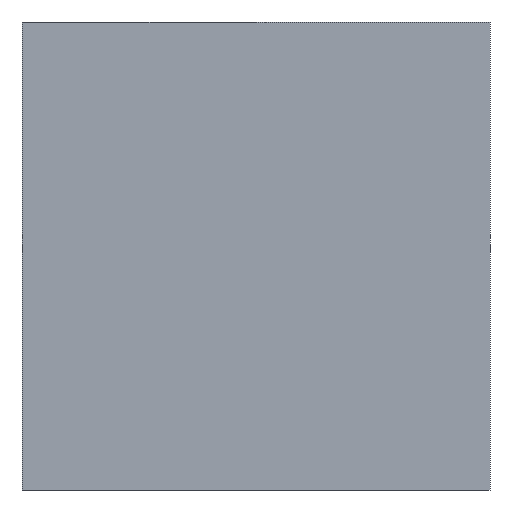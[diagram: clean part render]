
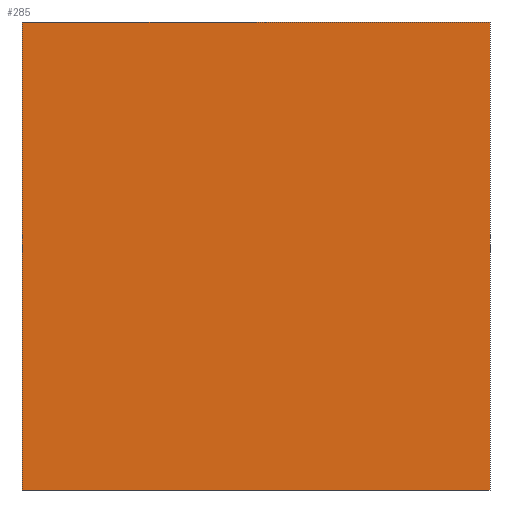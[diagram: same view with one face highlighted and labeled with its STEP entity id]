
A CAD part, front view. The second image highlights one B-rep face of the part: STEP entity #285.
In plain terms, the highlighted planar face has unit normal (0, -1, 0).
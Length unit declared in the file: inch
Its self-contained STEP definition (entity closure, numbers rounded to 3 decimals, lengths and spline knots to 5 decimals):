
#9 = LINE ( 'NONE', #99, #279 ) ;
#16 = CARTESIAN_POINT ( 'NONE',  ( 0., 0., -1. ) ) ;
#17 = LINE ( 'NONE', #181, #138 ) ;
#34 = CARTESIAN_POINT ( 'NONE',  ( 0., 0., 0. ) ) ;
#44 = EDGE_CURVE ( 'NONE', #256, #300, #17, .T. ) ;
#45 = DIRECTION ( 'NONE',  ( 0., 0., 1. ) ) ;
#52 = CARTESIAN_POINT ( 'NONE',  ( 0., 0., -1. ) ) ;
#54 = CARTESIAN_POINT ( 'NONE',  ( 1., 0., -1. ) ) ;
#56 = DIRECTION ( 'NONE',  ( 0., 0., -1. ) ) ;
#58 = AXIS2_PLACEMENT_3D ( 'NONE', #270, #290, #56 ) ;
#60 = FACE_OUTER_BOUND ( 'NONE', #82, .T. ) ;
#69 = LINE ( 'NONE', #16, #119 ) ;
#82 = EDGE_LOOP ( 'NONE', ( #125, #163, #248, #132 ) ) ;
#92 = EDGE_CURVE ( 'NONE', #240, #256, #69, .T. ) ;
#99 = CARTESIAN_POINT ( 'NONE',  ( 1., 0., -1. ) ) ;
#103 = VECTOR ( 'NONE', #235, 39.37008 ) ;
#107 = DIRECTION ( 'NONE',  ( 1., 0., 0. ) ) ;
#119 = VECTOR ( 'NONE', #45, 39.37008 ) ;
#125 = ORIENTED_EDGE ( 'NONE', *, *, #44, .F. ) ;
#132 = ORIENTED_EDGE ( 'NONE', *, *, #258, .T. ) ;
#138 = VECTOR ( 'NONE', #107, 39.37008 ) ;
#161 = LINE ( 'NONE', #52, #103 ) ;
#163 = ORIENTED_EDGE ( 'NONE', *, *, #92, .F. ) ;
#164 = PLANE ( 'NONE',  #58 ) ;
#167 = CARTESIAN_POINT ( 'NONE',  ( 1., 0., 0. ) ) ;
#181 = CARTESIAN_POINT ( 'NONE',  ( 0., 0., 0. ) ) ;
#189 = DIRECTION ( 'NONE',  ( 0., 0., 1. ) ) ;
#209 = EDGE_CURVE ( 'NONE', #240, #268, #161, .T. ) ;
#235 = DIRECTION ( 'NONE',  ( 1., 0., 0. ) ) ;
#240 = VERTEX_POINT ( 'NONE', #264 ) ;
#248 = ORIENTED_EDGE ( 'NONE', *, *, #209, .T. ) ;
#256 = VERTEX_POINT ( 'NONE', #34 ) ;
#258 = EDGE_CURVE ( 'NONE', #268, #300, #9, .T. ) ;
#264 = CARTESIAN_POINT ( 'NONE',  ( 0., 0., -1. ) ) ;
#268 = VERTEX_POINT ( 'NONE', #54 ) ;
#270 = CARTESIAN_POINT ( 'NONE',  ( 0., 0., -1. ) ) ;
#279 = VECTOR ( 'NONE', #189, 39.37008 ) ;
#285 = ADVANCED_FACE ( 'NONE', ( #60 ), #164, .T. ) ;
#290 = DIRECTION ( 'NONE',  ( 0., -1., 0. ) ) ;
#300 = VERTEX_POINT ( 'NONE', #167 ) ;
